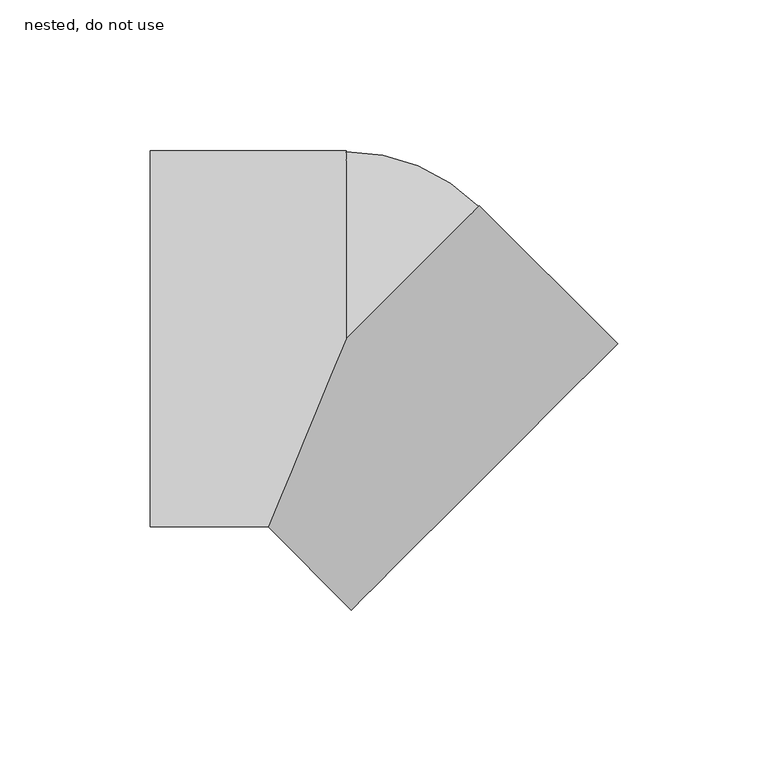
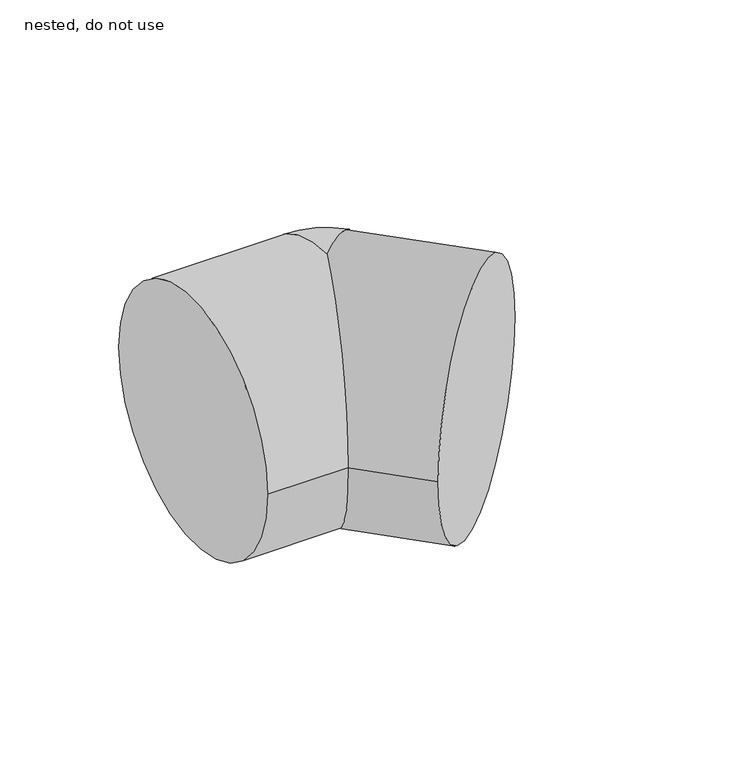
"""IFC4 building model written with IfcOpenShell, lengths in millimetres: pipe fitting geometry, NLRS_52_PIF_UN_HDPE elbow for bend assembly -SH_Akatherm : nested, do not use."""

import ifcopenshell
import ifcopenshell.guid

model = None  # the IFC model being written
_history = None  # IfcOwnerHistory: only IFC2X3 demands one
_inside = {}  # id of a spatial element -> (the spatial element, [elements in it])
_under = {}  # id of a project, library or spatial element -> (it, [spatial elements below it])
_declared = {}  # id of a project -> (the project, [libraries it declares])
_typed = {}  # id of a type object -> (the type object, [elements of that type])
_made_of = {}  # id of a material, layer set ... -> (it, [elements and type objects made of it])


def new_model(schema):
    """Start an empty IFC model of exactly this schema.

    Asked for "IFC4X3", IfcOpenShell would pick the latest addendum, in which some entities
    have other attributes; the version numbers below select the first issue.
    IFC2X3 requires an IfcOwnerHistory on every rooted entity: one is made here for all.
    """
    global model, _history
    if schema == "IFC4X3":
        model = ifcopenshell.file(schema_version=(4, 3, 0, 0))
    else:
        model = ifcopenshell.file(schema=schema)
    _inside.clear()
    _under.clear()
    _declared.clear()
    _typed.clear()
    _made_of.clear()
    _history = None
    if model.schema == "IFC2X3":
        org = make("IfcOrganization", Name="unknown")
        user = make(
            "IfcPersonAndOrganization",
            ThePerson=make("IfcPerson", FamilyName="unknown"),
            TheOrganization=org,
        )
        app = make(
            "IfcApplication",
            ApplicationDeveloper=org,
            Version="unknown",
            ApplicationFullName="unknown",
            ApplicationIdentifier="unknown",
        )
        _history = make(
            "IfcOwnerHistory",
            OwningUser=user,
            OwningApplication=app,
            ChangeAction="ADDED",
            CreationDate=0,
        )
    return model


def make(cls, **values):
    """One entity of the class cls with the attributes given. An attribute that is None is left unset."""
    return model.create_entity(
        cls, **{name: value for name, value in values.items() if value is not None}
    )


def rooted(cls, **values):
    """An entity with a GlobalId (a new one), such as an element, a storey or a relation."""
    return make(cls, GlobalId=ifcopenshell.guid.new(), OwnerHistory=_history, **values)


def si_unit(unit_type, name, prefix=None):
    """IfcSIUnit, for example si_unit("LENGTHUNIT", "METRE", prefix="MILLI")."""
    return make("IfcSIUnit", UnitType=unit_type, Prefix=prefix, Name=name)


def assignment(units):
    """IfcUnitAssignment: the units of a project."""
    return None if units is None else make("IfcUnitAssignment", Units=units)


def point(xyz):
    """IfcCartesianPoint."""
    return None if xyz is None else make("IfcCartesianPoint", Coordinates=xyz)


def direction(xyz):
    """IfcDirection."""
    return None if xyz is None else make("IfcDirection", DirectionRatios=xyz)


def frame(location, z_axis=None, x_axis=None):
    """IfcAxis2Placement3D, a coordinate frame: its origin and axes. An axis left out is left unset."""
    return make(
        "IfcAxis2Placement3D",
        Location=point(location),
        Axis=direction(z_axis),
        RefDirection=direction(x_axis),
    )


def origin():
    """The frame at (0, 0, 0) with its axes left unset."""
    return frame((0.0, 0.0, 0.0))


def place(relative_to, where):
    """IfcLocalPlacement: puts the frame where relative to a parent placement (None: the world)."""
    return make(
        "IfcLocalPlacement", PlacementRelTo=relative_to, RelativePlacement=where
    )


def context(
    kind, dimensions, precision=None, world=None, true_north=None, identifier=None
):
    """IfcGeometricRepresentationContext, for example the 3D "Model" context."""
    return make(
        "IfcGeometricRepresentationContext",
        ContextIdentifier=identifier,
        ContextType=kind,
        CoordinateSpaceDimension=dimensions,
        Precision=precision,
        WorldCoordinateSystem=world,
        TrueNorth=true_north,
    )


def project(units=None, contexts=None):
    """IfcProject with its units and contexts."""
    return rooted(
        "IfcProject",
        Name="project",
        RepresentationContexts=contexts,
        UnitsInContext=assignment(units),
    )


def spatial(cls, under=None, at=None, **own):
    """A site, building, storey or space (cls), placed at a placement, below another one or the project."""
    s = rooted(cls, ObjectPlacement=at, **own)
    if under is not None:
        _under.setdefault(under.id(), (under, []))[1].append(s)
    return s


def circle_curve(where, radius):
    """IfcCircle in the frame where."""
    return make("IfcCircle", Position=where, Radius=radius)


def ellipse_curve(where, semi_axis1, semi_axis2):
    """IfcEllipse in the frame where."""
    return make(
        "IfcEllipse", Position=where, SemiAxis1=semi_axis1, SemiAxis2=semi_axis2
    )


def trimmed(basis, trim1, trim2, sense, master):
    """IfcTrimmedCurve: the piece of a basis curve between two trims."""
    return make(
        "IfcTrimmedCurve",
        BasisCurve=basis,
        Trim1=trim1,
        Trim2=trim2,
        SenseAgreement=sense,
        MasterRepresentation=master,
    )


def shape(context_of_items, identifier, shape_type, items):
    """IfcShapeRepresentation: the items that make up one representation, for example the "Body"."""
    return make(
        "IfcShapeRepresentation",
        ContextOfItems=context_of_items,
        RepresentationIdentifier=identifier,
        RepresentationType=shape_type,
        Items=items,
    )


def source(mapping_origin, context_of_items, identifier, shape_type, items):
    """IfcRepresentationMap: a shape defined once, which mapped items show again and again."""
    return make(
        "IfcRepresentationMap",
        MappingOrigin=mapping_origin,
        MappedRepresentation=shape(context_of_items, identifier, shape_type, items),
    )


def transform(
    local_origin,
    x_axis=None,
    y_axis=None,
    z_axis=None,
    scale=None,
    scale2=None,
    scale3=None,
    uniform=True,
):
    """IfcCartesianTransformationOperator3D, or its non-uniform kind. x_axis, y_axis, z_axis: its Axis1, 2, 3."""
    if uniform:
        return make(
            "IfcCartesianTransformationOperator3D",
            Axis1=direction(x_axis),
            Axis2=direction(y_axis),
            LocalOrigin=point(local_origin),
            Scale=scale,
            Axis3=direction(z_axis),
        )
    return make(
        "IfcCartesianTransformationOperator3DnonUniform",
        Axis1=direction(x_axis),
        Axis2=direction(y_axis),
        LocalOrigin=point(local_origin),
        Scale=scale,
        Axis3=direction(z_axis),
        Scale2=scale2,
        Scale3=scale3,
    )


def mapped(mapping_source, mapping_target):
    """IfcMappedItem: shows the shape of a source again, moved by a transform."""
    return make(
        "IfcMappedItem", MappingSource=mapping_source, MappingTarget=mapping_target
    )


def made_of(thing, what):
    """Note that an element or type object is made of a material, layer set ...; save() writes the relation."""
    if what is not None:
        _made_of.setdefault(what.id(), (what, []))[1].append(thing)
    return thing


def element(
    cls,
    number,
    at=None,
    inside=None,
    cuts=None,
    type_object=None,
    material=None,
    context=None,
    identifier="Body",
    shape_type=None,
    held_by="IfcProductDefinitionShape",
    body=None,
    shapes=None,
    **own,
):
    """One element of the class cls, such as IfcWall. Its Tag is "e" and its number.

    at: its placement. inside: the storey or other place that contains it. cuts: it is an
    opening in that element (IfcRelVoidsElement). A single representation is given by context,
    identifier, shape_type and body (its items); several are given by shapes. held_by: the class
    of the entity that holds the representations. save() writes the other relations.
    """
    e = rooted(cls, Tag="e%d" % number, ObjectPlacement=at, **own)
    if body is not None:
        shapes = [shape(context, identifier, shape_type, body)]
    if shapes is not None:
        e.Representation = make(held_by, Representations=shapes)
    if inside is not None:
        _inside.setdefault(inside.id(), (inside, []))[1].append(e)
    if cuts is not None:
        rooted(
            "IfcRelVoidsElement", RelatingBuildingElement=cuts, RelatedOpeningElement=e
        )
    if type_object is not None:
        _typed.setdefault(type_object.id(), (type_object, []))[1].append(e)
    return made_of(e, material)


def aggregate(whole, parts):
    """IfcRelAggregates: a whole, such as a stair, and the parts it consists of."""
    return rooted("IfcRelAggregates", RelatingObject=whole, RelatedObjects=parts)


def save(model, path):
    """Write the relations noted so far, then the file.

    IfcRelAggregates (storeys below a building ...), IfcRelContainedInSpatialStructure (elements
    in a storey), IfcRelDefinesByType, IfcRelAssociatesMaterial and IfcRelDeclares: one each for
    every whole, place, type object, material and project.
    """
    for whole, parts in _under.values():
        aggregate(whole, parts)
    for where, things in _inside.values():
        rooted(
            "IfcRelContainedInSpatialStructure",
            RelatedElements=things,
            RelatingStructure=where,
        )
    for kind, things in _typed.values():
        rooted("IfcRelDefinesByType", RelatedObjects=things, RelatingType=kind)
    for what, things in _made_of.values():
        rooted("IfcRelAssociatesMaterial", RelatedObjects=things, RelatingMaterial=what)
    for by, libraries in _declared.values():
        rooted("IfcRelDeclares", RelatingContext=by, RelatedDefinitions=libraries)
    model.write(path)


def plane_surface(at):
    """IfcPlane: the flat surface through the origin of the frame at, square to its z axis."""
    return make("IfcPlane", Position=at)


def cylinder_surface(at, radius):
    """IfcCylindricalSurface: all points at the distance radius from the z axis of the frame at."""
    return make("IfcCylindricalSurface", Position=at, Radius=radius)


def revolved_surface(curve, axis_point, axis_direction):
    """IfcSurfaceOfRevolution: the curve turned about the line through axis_point along axis_direction."""
    return make(
        "IfcSurfaceOfRevolution",
        SweptCurve=make("IfcArbitraryOpenProfileDef", ProfileType="CURVE", Curve=curve),
        AxisPosition=make("IfcAxis1Placement", Location=point(axis_point), Axis=direction(axis_direction)),
    )


def advanced_brep(points, edges, surfaces, faces):
    """IfcAdvancedBrep: a solid bounded by faces that lie on surfaces and meet in shared edges.

    An edge is (start, end): straight between two places in points (the first is 0);
    or (start, end, curve); or (start, end, curve, False) where it runs against its curve.
    A face is (place in surfaces, loops), or (place, loops, False) where it looks against
    its surface's normal. A loop lists edges by number (the first is 1), with a minus sign
    where the edge is run from its end to its start. The first loop is the outer one.
    """
    corners = [point(p) for p in points]
    vertices = [make("IfcVertexPoint", VertexGeometry=c) for c in corners]
    made = []
    for start, end, *more in edges:
        made.append(
            make(
                "IfcEdgeCurve",
                EdgeStart=vertices[start],
                EdgeEnd=vertices[end],
                EdgeGeometry=more[0] if more else make("IfcPolyline", Points=[corners[start], corners[end]]),
                SameSense=more[1] if len(more) > 1 else True,
            )
        )
    hull = []
    for where, loops, *sense in faces:
        bounds = []
        for j, loop in enumerate(loops):
            ring = [make("IfcOrientedEdge", EdgeElement=made[abs(k) - 1], Orientation=k > 0) for k in loop]
            bounds.append(
                make(
                    "IfcFaceOuterBound" if j == 0 else "IfcFaceBound",
                    Bound=make("IfcEdgeLoop", EdgeList=ring),
                    Orientation=True,
                )
            )
        hull.append(make("IfcAdvancedFace", Bounds=bounds, FaceSurface=surfaces[where], SameSense=sense[0] if sense else True))
    return make("IfcAdvancedBrep", Outer=make("IfcClosedShell", CfsFaces=hull))


def nested_do_not_use_355ab53d(model_context):
    return source(origin(), model_context, "Body", "AdvancedBrep", [
        advanced_brep(
        [(-65.0, 62.5, 0.0), (-65.0, -62.5, 0.0), (0.0, 62.5, 0.0), (0.0, 0.0, -62.5), (-25.8883476, -62.5, 0.0), (0.0, 0.0, 62.5), (90.1561146, -1.767767, 0.0), (1.767767, -90.1561146, 0.0), (44.1941738, 44.1941738, 0.0)],
        [
            (0, 1, circle_curve(frame((-65.0, 0.0, 0.0), z_axis=(-1.0, 0.0, 0.0), x_axis=(0.0, -1.0, 0.0)), 62.5)),
            (1, 0, circle_curve(frame((-65.0, 0.0, 0.0), z_axis=(-1.0, 0.0, 0.0), x_axis=(0.0, -1.0, 0.0)), 62.5)),
            (0, 2),
            (2, 3, circle_curve(frame((0.0, 0.0, 0.0), z_axis=(-1.0, 0.0, 0.0), x_axis=(0.0, -1.0, 0.0)), 62.5)),
            (3, 4, ellipse_curve(frame((0.0, 0.0, 0.0), z_axis=(-0.9238795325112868, 0.38268343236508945, 0.0), x_axis=(0.3826834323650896, 0.923879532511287, 0.0)), 67.6495125, 62.5)),
            (4, 1),
            (4, 5, ellipse_curve(frame((0.0, 0.0, 0.0), z_axis=(-0.9238795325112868, 0.38268343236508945, 0.0), x_axis=(0.3826834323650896, 0.923879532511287, 0.0)), 67.6495125, 62.5)),
            (5, 2, circle_curve(frame((0.0, 0.0, 0.0), z_axis=(-1.0, 0.0, 0.0), x_axis=(0.0, -1.0, 0.0)), 62.5)),
            (6, 7, circle_curve(frame((45.9619408, -45.9619408, 0.0), z_axis=(0.707106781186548, -0.707106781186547, 0.0), x_axis=(-0.707106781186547, -0.707106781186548, 0.0)), 62.5)),
            (7, 6, circle_curve(frame((45.9619408, -45.9619408, 0.0), z_axis=(0.707106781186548, -0.707106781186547, 0.0), x_axis=(-0.707106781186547, -0.707106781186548, 0.0)), 62.5)),
            (6, 8),
            (8, 5, circle_curve(frame((0.0, 0.0, 0.0), z_axis=(0.707106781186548, -0.707106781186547, 0.0), x_axis=(-0.707106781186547, -0.707106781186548, 0.0)), 62.5)),
            (4, 7),
            (3, 8, circle_curve(frame((0.0, 0.0, 0.0), z_axis=(0.707106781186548, -0.707106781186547, 0.0), x_axis=(-0.707106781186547, -0.707106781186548, 0.0)), 62.5)),
        ],
        [
            plane_surface(frame((-65.0, -62.5, 0.0), z_axis=(-1.0, 0.0, 0.0), x_axis=(0.0, 0.0, -1.0))),
            cylinder_surface(frame((-65.0, 0.0, 0.0), z_axis=(1.0, 0.0, 0.0), x_axis=(0.0, -1.0, 0.0)), 62.5),
            plane_surface(frame((45.9619408, -45.9619408, 0.0), z_axis=(0.707106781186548, -0.707106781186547, 0.0), x_axis=(0.0, 0.0, 1.0))),
            cylinder_surface(frame((0.0, 0.0, 0.0), z_axis=(-0.707106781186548, 0.707106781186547, 0.0), x_axis=(-0.707106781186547, -0.707106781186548, 0.0)), 62.5),
            revolved_surface(trimmed(ellipse_curve(frame((0.0, 0.0, 0.0), z_axis=(1.0, 0.0, 0.0), x_axis=(0.0, -1.0, 0.0)), 62.5, 62.5), [point((0.0, 0.0, -62.5))], [point((0.0, 0.0, 62.5))], True, "CARTESIAN"), (0.0, 0.0, 142.5), (0.0, 0.0, 1.0)),
        ],
        [
            (0, [[1, 2]]),
            (1, [[3, 4, 5, 6, -1]]),
            (1, [[-6, 7, 8, -3, -2]]),
            (2, [[9, 10]]),
            (3, [[11, 12, -7, 13, -9]]),
            (3, [[-13, -5, 14, -11, -10]]),
            (4, [[-14, -4, -8, -12]]),
        ],
    ),
    ])


if __name__ == "__main__":
    model = new_model("IFC4")
    model_context = context("Model", 3, world=origin())
    ifc_project = project(units=[si_unit("LENGTHUNIT", "METRE", prefix="MILLI")], contexts=[model_context])
    site = spatial("IfcSite", under=ifc_project)
    building = spatial("IfcBuilding", under=site)
    placement = place(None, origin())
    nested_do_not_use_shape = nested_do_not_use_355ab53d(model_context)
    element("IfcPipeFitting", 1, ObjectType="NLRS_52_PIF_UN_HDPE elbow for bend assembly -SH_Akatherm : nested, do not use", at=placement, inside=building, context=model_context, shape_type="MappedRepresentation", body=[
        mapped(nested_do_not_use_shape, transform((0.0, 0.0, 0.0), x_axis=(1.0, 0.0, 0.0), y_axis=(0.0, 1.0, 0.0), z_axis=(0.0, 0.0, 1.0))),
    ])
    save(model, "model.ifc")
